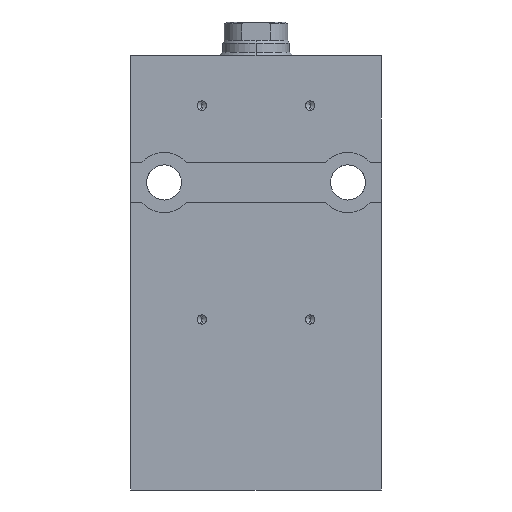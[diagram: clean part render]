
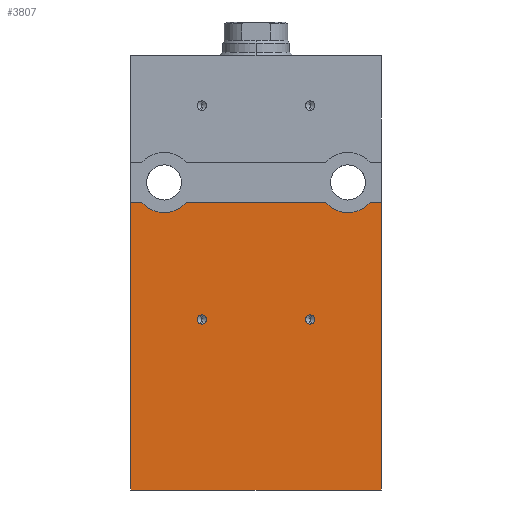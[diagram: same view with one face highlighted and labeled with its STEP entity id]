
A CAD part, left-side view. The second image highlights one B-rep face of the part: STEP entity #3807.
In plain terms, the highlighted planar face has unit normal (-1, 0, 0).
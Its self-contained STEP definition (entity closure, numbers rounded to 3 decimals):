
#34 = CARTESIAN_POINT ( 'NONE',  ( -27.5, 27.5, -48. ) ) ;
#107 = VERTEX_POINT ( 'NONE', #5166 ) ;
#113 = LINE ( 'NONE', #5958, #858 ) ;
#290 = VERTEX_POINT ( 'NONE', #4930 ) ;
#345 = ORIENTED_EDGE ( 'NONE', *, *, #3766, .T. ) ;
#348 = EDGE_CURVE ( 'NONE', #5193, #2854, #4404, .T. ) ;
#494 = CARTESIAN_POINT ( 'NONE',  ( -27.5, -16.2, -90.425 ) ) ;
#530 = VECTOR ( 'NONE', #4089, 1000. ) ;
#576 = ORIENTED_EDGE ( 'NONE', *, *, #804, .F. ) ;
#696 = CARTESIAN_POINT ( 'NONE',  ( -27.5, 37.5, -140. ) ) ;
#709 = VERTEX_POINT ( 'NONE', #494 ) ;
#804 = EDGE_CURVE ( 'NONE', #290, #4717, #2703, .T. ) ;
#819 = ORIENTED_EDGE ( 'NONE', *, *, #5419, .F. ) ;
#827 = VERTEX_POINT ( 'NONE', #3157 ) ;
#858 = VECTOR ( 'NONE', #1158, 1000. ) ;
#902 = CARTESIAN_POINT ( 'NONE',  ( -27.5, 37.5, -54. ) ) ;
#907 = DIRECTION ( 'NONE',  ( 0., 0., 1. ) ) ;
#979 = DIRECTION ( 'NONE',  ( 0., -1., 0. ) ) ;
#1128 = CARTESIAN_POINT ( 'NONE',  ( -27.5, 16.2, -89. ) ) ;
#1158 = DIRECTION ( 'NONE',  ( 0., -1., 0. ) ) ;
#1163 = CARTESIAN_POINT ( 'NONE',  ( -27.5, 20.792, -54. ) ) ;
#1195 = EDGE_CURVE ( 'NONE', #4642, #6627, #113, .T. ) ;
#1233 = DIRECTION ( 'NONE',  ( 1., 0., 0. ) ) ;
#1247 = DIRECTION ( 'NONE',  ( 1., 0., 0. ) ) ;
#1491 = CARTESIAN_POINT ( 'NONE',  ( -27.5, 37.5, -54. ) ) ;
#1605 = CARTESIAN_POINT ( 'NONE',  ( -27.5, 37.5, -140. ) ) ;
#1690 = VERTEX_POINT ( 'NONE', #902 ) ;
#1738 = EDGE_CURVE ( 'NONE', #1690, #827, #6219, .T. ) ;
#1754 = CARTESIAN_POINT ( 'NONE',  ( -27.5, -27.5, -48. ) ) ;
#1770 = CARTESIAN_POINT ( 'NONE',  ( -27.5, -37.5, -140. ) ) ;
#1776 = PLANE ( 'NONE',  #3224 ) ;
#1864 = CIRCLE ( 'NONE', #4986, 1.425 ) ;
#2027 = LINE ( 'NONE', #2056, #5247 ) ;
#2056 = CARTESIAN_POINT ( 'NONE',  ( -27.5, -37.5, -140. ) ) ;
#2102 = ORIENTED_EDGE ( 'NONE', *, *, #2602, .T. ) ;
#2175 = DIRECTION ( 'NONE',  ( 0., 0., -1. ) ) ;
#2201 = ORIENTED_EDGE ( 'NONE', *, *, #1195, .F. ) ;
#2229 = DIRECTION ( 'NONE',  ( 0., 0., -1. ) ) ;
#2256 = FACE_OUTER_BOUND ( 'NONE', #5824, .T. ) ;
#2446 = EDGE_CURVE ( 'NONE', #4717, #290, #3430, .T. ) ;
#2602 = EDGE_CURVE ( 'NONE', #5193, #6627, #6479, .T. ) ;
#2671 = VECTOR ( 'NONE', #979, 1000. ) ;
#2703 = CIRCLE ( 'NONE', #4378, 1.425 ) ;
#2769 = CARTESIAN_POINT ( 'NONE',  ( -27.5, 37.5, -54. ) ) ;
#2854 = VERTEX_POINT ( 'NONE', #3639 ) ;
#2869 = CARTESIAN_POINT ( 'NONE',  ( -27.5, -16.2, -89. ) ) ;
#2909 = CARTESIAN_POINT ( 'NONE',  ( -27.5, 37.5, -140. ) ) ;
#2969 = CARTESIAN_POINT ( 'NONE',  ( -27.5, -16.2, -89. ) ) ;
#3070 = EDGE_LOOP ( 'NONE', ( #5266, #576 ) ) ;
#3135 = ORIENTED_EDGE ( 'NONE', *, *, #348, .F. ) ;
#3157 = CARTESIAN_POINT ( 'NONE',  ( -27.5, 34.208, -54. ) ) ;
#3203 = VECTOR ( 'NONE', #907, 1000. ) ;
#3224 = AXIS2_PLACEMENT_3D ( 'NONE', #696, #3926, #6487 ) ;
#3430 = CIRCLE ( 'NONE', #4791, 1.425 ) ;
#3441 = DIRECTION ( 'NONE',  ( -1., 0., 0. ) ) ;
#3639 = CARTESIAN_POINT ( 'NONE',  ( -27.5, -37.5, -54. ) ) ;
#3744 = EDGE_CURVE ( 'NONE', #107, #5194, #5282, .T. ) ;
#3766 = EDGE_CURVE ( 'NONE', #4642, #827, #4003, .T. ) ;
#3807 = ADVANCED_FACE ( 'NONE', ( #4933, #4963, #2256 ), #1776, .T. ) ;
#3926 = DIRECTION ( 'NONE',  ( -1., 0., 0. ) ) ;
#4003 = CIRCLE ( 'NONE', #5346, 9. ) ;
#4052 = DIRECTION ( 'NONE',  ( 0., 0., 1. ) ) ;
#4088 = CARTESIAN_POINT ( 'NONE',  ( -27.5, -16.2, -87.575 ) ) ;
#4089 = DIRECTION ( 'NONE',  ( 0., -1., 0. ) ) ;
#4317 = DIRECTION ( 'NONE',  ( -1., 0., 0. ) ) ;
#4378 = AXIS2_PLACEMENT_3D ( 'NONE', #6095, #3441, #5573 ) ;
#4404 = LINE ( 'NONE', #2769, #5705 ) ;
#4480 = DIRECTION ( 'NONE',  ( 0., 0., 1. ) ) ;
#4622 = CARTESIAN_POINT ( 'NONE',  ( -27.5, -20.792, -54. ) ) ;
#4635 = ORIENTED_EDGE ( 'NONE', *, *, #6691, .F. ) ;
#4642 = VERTEX_POINT ( 'NONE', #1163 ) ;
#4685 = DIRECTION ( 'NONE',  ( 0., 0., 1. ) ) ;
#4717 = VERTEX_POINT ( 'NONE', #6613 ) ;
#4723 = DIRECTION ( 'NONE',  ( -1., 0., 0. ) ) ;
#4791 = AXIS2_PLACEMENT_3D ( 'NONE', #1128, #4317, #6461 ) ;
#4898 = DIRECTION ( 'NONE',  ( 0., -1., 0. ) ) ;
#4915 = CIRCLE ( 'NONE', #5804, 1.425 ) ;
#4930 = CARTESIAN_POINT ( 'NONE',  ( -27.5, 16.2, -90.425 ) ) ;
#4933 = FACE_BOUND ( 'NONE', #3070, .T. ) ;
#4963 = FACE_BOUND ( 'NONE', #5037, .T. ) ;
#4986 = AXIS2_PLACEMENT_3D ( 'NONE', #2869, #5417, #4480 ) ;
#4992 = CARTESIAN_POINT ( 'NONE',  ( -27.5, -34.208, -54. ) ) ;
#5037 = EDGE_LOOP ( 'NONE', ( #819, #6329 ) ) ;
#5166 = CARTESIAN_POINT ( 'NONE',  ( -27.5, 37.5, -140. ) ) ;
#5193 = VERTEX_POINT ( 'NONE', #4992 ) ;
#5194 = VERTEX_POINT ( 'NONE', #1770 ) ;
#5247 = VECTOR ( 'NONE', #4685, 1000. ) ;
#5266 = ORIENTED_EDGE ( 'NONE', *, *, #2446, .F. ) ;
#5282 = LINE ( 'NONE', #1605, #2671 ) ;
#5298 = VERTEX_POINT ( 'NONE', #4088 ) ;
#5309 = EDGE_CURVE ( 'NONE', #5194, #2854, #2027, .T. ) ;
#5346 = AXIS2_PLACEMENT_3D ( 'NONE', #34, #1247, #2175 ) ;
#5417 = DIRECTION ( 'NONE',  ( -1., 0., 0. ) ) ;
#5419 = EDGE_CURVE ( 'NONE', #5298, #709, #4915, .T. ) ;
#5573 = DIRECTION ( 'NONE',  ( 0., 0., 1. ) ) ;
#5703 = LINE ( 'NONE', #2909, #3203 ) ;
#5705 = VECTOR ( 'NONE', #4898, 1000. ) ;
#5804 = AXIS2_PLACEMENT_3D ( 'NONE', #2969, #4723, #4052 ) ;
#5824 = EDGE_LOOP ( 'NONE', ( #3135, #2102, #2201, #345, #6255, #4635, #6794, #6812 ) ) ;
#5958 = CARTESIAN_POINT ( 'NONE',  ( -27.5, 37.5, -54. ) ) ;
#6011 = AXIS2_PLACEMENT_3D ( 'NONE', #1754, #1233, #2229 ) ;
#6095 = CARTESIAN_POINT ( 'NONE',  ( -27.5, 16.2, -89. ) ) ;
#6219 = LINE ( 'NONE', #1491, #530 ) ;
#6255 = ORIENTED_EDGE ( 'NONE', *, *, #1738, .F. ) ;
#6329 = ORIENTED_EDGE ( 'NONE', *, *, #6472, .F. ) ;
#6461 = DIRECTION ( 'NONE',  ( 0., 0., 1. ) ) ;
#6472 = EDGE_CURVE ( 'NONE', #709, #5298, #1864, .T. ) ;
#6479 = CIRCLE ( 'NONE', #6011, 9. ) ;
#6487 = DIRECTION ( 'NONE',  ( 0., 0., 1. ) ) ;
#6613 = CARTESIAN_POINT ( 'NONE',  ( -27.5, 16.2, -87.575 ) ) ;
#6627 = VERTEX_POINT ( 'NONE', #4622 ) ;
#6691 = EDGE_CURVE ( 'NONE', #107, #1690, #5703, .T. ) ;
#6794 = ORIENTED_EDGE ( 'NONE', *, *, #3744, .T. ) ;
#6812 = ORIENTED_EDGE ( 'NONE', *, *, #5309, .T. ) ;
